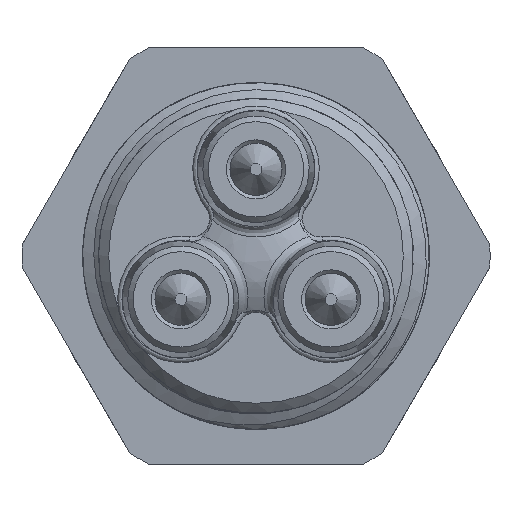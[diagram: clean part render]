
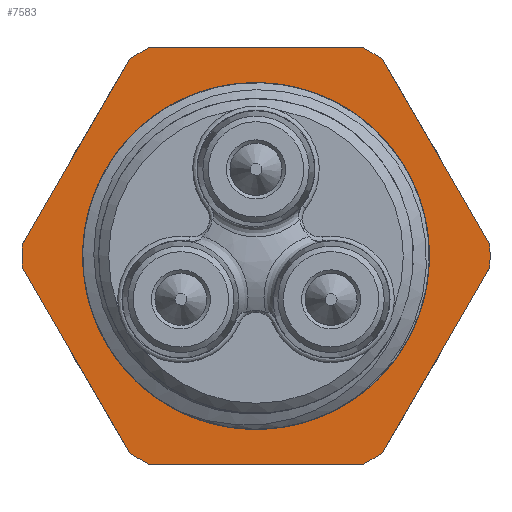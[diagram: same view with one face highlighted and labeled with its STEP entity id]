
A CAD part, front view. The second image highlights one B-rep face of the part: STEP entity #7583.
In plain terms, the highlighted planar face has unit normal (0, -1, 0).
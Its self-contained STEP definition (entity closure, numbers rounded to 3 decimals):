
#24 = EDGE_LOOP ( 'NONE', ( #1197, #7120 ) ) ;
#123 = VECTOR ( 'NONE', #2947, 1000. ) ;
#506 = DIRECTION ( 'NONE',  ( 0., 0., 1. ) ) ;
#523 = EDGE_CURVE ( 'NONE', #3905, #7174, #4492, .T. ) ;
#668 = CARTESIAN_POINT ( 'NONE',  ( 12.892, -2.75, 1.67 ) ) ;
#671 = VECTOR ( 'NONE', #3867, 1000. ) ;
#830 = ORIENTED_EDGE ( 'NONE', *, *, #8344, .F. ) ;
#1020 = ORIENTED_EDGE ( 'NONE', *, *, #6069, .F. ) ;
#1047 = EDGE_CURVE ( 'NONE', #5073, #4652, #2901, .T. ) ;
#1054 = DIRECTION ( 'NONE',  ( 0., 1., 0. ) ) ;
#1197 = ORIENTED_EDGE ( 'NONE', *, *, #8729, .T. ) ;
#1213 = DIRECTION ( 'NONE',  ( 0., 1., 0. ) ) ;
#1475 = AXIS2_PLACEMENT_3D ( 'NONE', #2023, #1213, #3539 ) ;
#1485 = LINE ( 'NONE', #3715, #7405 ) ;
#1493 = DIRECTION ( 'NONE',  ( 0., 0., 1. ) ) ;
#1515 = CARTESIAN_POINT ( 'NONE',  ( 12.892, -2.75, -1.67 ) ) ;
#1713 = DIRECTION ( 'NONE',  ( 0., 0., 1. ) ) ;
#1735 = CARTESIAN_POINT ( 'NONE',  ( 10., -2.75, -12. ) ) ;
#1833 = CARTESIAN_POINT ( 'NONE',  ( 0., -2.75, 0. ) ) ;
#1880 = DIRECTION ( 'NONE',  ( 0., 1., 0. ) ) ;
#1918 = AXIS2_PLACEMENT_3D ( 'NONE', #8024, #2832, #1493 ) ;
#2023 = CARTESIAN_POINT ( 'NONE',  ( 0., -2.75, 0. ) ) ;
#2185 = LINE ( 'NONE', #668, #5983 ) ;
#2286 = EDGE_LOOP ( 'NONE', ( #6316, #1020, #2302, #7749, #6196, #6018, #3443, #4724, #6228, #8507, #830, #3870 ) ) ;
#2302 = ORIENTED_EDGE ( 'NONE', *, *, #1047, .F. ) ;
#2401 = DIRECTION ( 'NONE',  ( 0., 0., 1. ) ) ;
#2516 = CARTESIAN_POINT ( 'NONE',  ( 9.977, -2.75, 0.679 ) ) ;
#2525 = CARTESIAN_POINT ( 'NONE',  ( 0., -2.75, 0. ) ) ;
#2739 = CARTESIAN_POINT ( 'NONE',  ( -7.3, -2.75, 11.356 ) ) ;
#2756 = DIRECTION ( 'NONE',  ( 0., 1., 0. ) ) ;
#2804 = CIRCLE ( 'NONE', #3854, 13.5 ) ;
#2831 = VERTEX_POINT ( 'NONE', #6248 ) ;
#2832 = DIRECTION ( 'NONE',  ( 0., 1., 0. ) ) ;
#2853 = CIRCLE ( 'NONE', #7265, 13.5 ) ;
#2901 = LINE ( 'NONE', #1515, #123 ) ;
#2947 = DIRECTION ( 'NONE',  ( -0.5, 0., -0.866 ) ) ;
#2955 = AXIS2_PLACEMENT_3D ( 'NONE', #2525, #8335, #4711 ) ;
#3000 = CARTESIAN_POINT ( 'NONE',  ( 0., -2.75, 0. ) ) ;
#3022 = EDGE_CURVE ( 'NONE', #6594, #5050, #2185, .T. ) ;
#3337 = VERTEX_POINT ( 'NONE', #6991 ) ;
#3443 = ORIENTED_EDGE ( 'NONE', *, *, #7956, .F. ) ;
#3460 = VERTEX_POINT ( 'NONE', #2516 ) ;
#3531 = CARTESIAN_POINT ( 'NONE',  ( -6.185, -2.75, -12. ) ) ;
#3539 = DIRECTION ( 'NONE',  ( 0., 0., 1. ) ) ;
#3541 = CARTESIAN_POINT ( 'NONE',  ( 7.3, -2.75, -11.356 ) ) ;
#3606 = DIRECTION ( 'NONE',  ( 0., 0., 1. ) ) ;
#3668 = DIRECTION ( 'NONE',  ( 0., 1., 0. ) ) ;
#3715 = CARTESIAN_POINT ( 'NONE',  ( -7.892, -2.75, -10.33 ) ) ;
#3755 = EDGE_CURVE ( 'NONE', #4239, #5274, #6702, .T. ) ;
#3843 = CIRCLE ( 'NONE', #9192, 13.5 ) ;
#3854 = AXIS2_PLACEMENT_3D ( 'NONE', #5246, #3668, #2401 ) ;
#3861 = CARTESIAN_POINT ( 'NONE',  ( -7.3, -2.75, -11.356 ) ) ;
#3867 = DIRECTION ( 'NONE',  ( -1., 0., 0. ) ) ;
#3870 = ORIENTED_EDGE ( 'NONE', *, *, #9166, .F. ) ;
#3899 = CIRCLE ( 'NONE', #1475, 10. ) ;
#3905 = VERTEX_POINT ( 'NONE', #3920 ) ;
#3920 = CARTESIAN_POINT ( 'NONE',  ( -13.485, -2.75, -0.644 ) ) ;
#3943 = EDGE_CURVE ( 'NONE', #8714, #3337, #3843, .T. ) ;
#4030 = AXIS2_PLACEMENT_3D ( 'NONE', #3000, #8711, #3606 ) ;
#4119 = CARTESIAN_POINT ( 'NONE',  ( 0., -2.75, 0. ) ) ;
#4169 = FACE_BOUND ( 'NONE', #24, .T. ) ;
#4196 = VECTOR ( 'NONE', #8512, 1000. ) ;
#4239 = VERTEX_POINT ( 'NONE', #5603 ) ;
#4383 = DIRECTION ( 'NONE',  ( -0.5, 0., 0.866 ) ) ;
#4492 = CIRCLE ( 'NONE', #1918, 13.5 ) ;
#4632 = AXIS2_PLACEMENT_3D ( 'NONE', #4855, #2756, #6292 ) ;
#4652 = VERTEX_POINT ( 'NONE', #3541 ) ;
#4711 = DIRECTION ( 'NONE',  ( 0., 0., 1. ) ) ;
#4724 = ORIENTED_EDGE ( 'NONE', *, *, #3943, .F. ) ;
#4854 = DIRECTION ( 'NONE',  ( 0., 1., 0. ) ) ;
#4855 = CARTESIAN_POINT ( 'NONE',  ( 10., -2.75, 0. ) ) ;
#4934 = VERTEX_POINT ( 'NONE', #3861 ) ;
#4944 = DIRECTION ( 'NONE',  ( 0.5, 0., -0.866 ) ) ;
#5050 = VERTEX_POINT ( 'NONE', #6168 ) ;
#5073 = VERTEX_POINT ( 'NONE', #7741 ) ;
#5246 = CARTESIAN_POINT ( 'NONE',  ( 0., -2.75, 0. ) ) ;
#5274 = VERTEX_POINT ( 'NONE', #3531 ) ;
#5603 = CARTESIAN_POINT ( 'NONE',  ( 6.185, -2.75, -12. ) ) ;
#5760 = PLANE ( 'NONE',  #4632 ) ;
#5822 = CARTESIAN_POINT ( 'NONE',  ( 7.3, -2.75, 11.356 ) ) ;
#5882 = VECTOR ( 'NONE', #6219, 1000. ) ;
#5895 = EDGE_CURVE ( 'NONE', #9097, #3460, #6331, .T. ) ;
#5983 = VECTOR ( 'NONE', #4944, 1000. ) ;
#6018 = ORIENTED_EDGE ( 'NONE', *, *, #7765, .F. ) ;
#6069 = EDGE_CURVE ( 'NONE', #4652, #4239, #9368, .T. ) ;
#6168 = CARTESIAN_POINT ( 'NONE',  ( 13.485, -2.75, 0.644 ) ) ;
#6196 = ORIENTED_EDGE ( 'NONE', *, *, #3022, .F. ) ;
#6219 = DIRECTION ( 'NONE',  ( 1., 0., 0. ) ) ;
#6228 = ORIENTED_EDGE ( 'NONE', *, *, #8637, .F. ) ;
#6248 = CARTESIAN_POINT ( 'NONE',  ( 6.185, -2.75, 12. ) ) ;
#6292 = DIRECTION ( 'NONE',  ( 0., 0., 1. ) ) ;
#6316 = ORIENTED_EDGE ( 'NONE', *, *, #3755, .F. ) ;
#6320 = LINE ( 'NONE', #8652, #4196 ) ;
#6331 = CIRCLE ( 'NONE', #2955, 10. ) ;
#6594 = VERTEX_POINT ( 'NONE', #5822 ) ;
#6665 = EDGE_CURVE ( 'NONE', #5050, #5073, #2804, .T. ) ;
#6702 = LINE ( 'NONE', #1735, #671 ) ;
#6834 = CARTESIAN_POINT ( 'NONE',  ( 10., -2.75, 12. ) ) ;
#6924 = LINE ( 'NONE', #6834, #5882 ) ;
#6991 = CARTESIAN_POINT ( 'NONE',  ( -6.185, -2.75, 12. ) ) ;
#7120 = ORIENTED_EDGE ( 'NONE', *, *, #5895, .T. ) ;
#7174 = VERTEX_POINT ( 'NONE', #8053 ) ;
#7265 = AXIS2_PLACEMENT_3D ( 'NONE', #8240, #1054, #1713 ) ;
#7405 = VECTOR ( 'NONE', #4383, 1000. ) ;
#7583 = ADVANCED_FACE ( 'NONE', ( #4169, #7854 ), #5760, .F. ) ;
#7741 = CARTESIAN_POINT ( 'NONE',  ( 13.485, -2.75, -0.644 ) ) ;
#7749 = ORIENTED_EDGE ( 'NONE', *, *, #6665, .F. ) ;
#7765 = EDGE_CURVE ( 'NONE', #2831, #6594, #8152, .T. ) ;
#7854 = FACE_OUTER_BOUND ( 'NONE', #2286, .T. ) ;
#7956 = EDGE_CURVE ( 'NONE', #3337, #2831, #6924, .T. ) ;
#8024 = CARTESIAN_POINT ( 'NONE',  ( 0., -2.75, 0. ) ) ;
#8053 = CARTESIAN_POINT ( 'NONE',  ( -13.485, -2.75, 0.644 ) ) ;
#8152 = CIRCLE ( 'NONE', #4030, 13.5 ) ;
#8240 = CARTESIAN_POINT ( 'NONE',  ( 0., -2.75, 0. ) ) ;
#8277 = AXIS2_PLACEMENT_3D ( 'NONE', #4119, #4854, #8619 ) ;
#8335 = DIRECTION ( 'NONE',  ( 0., 1., 0. ) ) ;
#8344 = EDGE_CURVE ( 'NONE', #4934, #3905, #1485, .T. ) ;
#8507 = ORIENTED_EDGE ( 'NONE', *, *, #523, .F. ) ;
#8512 = DIRECTION ( 'NONE',  ( 0.5, 0., 0.866 ) ) ;
#8619 = DIRECTION ( 'NONE',  ( 0., 0., 1. ) ) ;
#8637 = EDGE_CURVE ( 'NONE', #7174, #8714, #6320, .T. ) ;
#8652 = CARTESIAN_POINT ( 'NONE',  ( -7.892, -2.75, 10.33 ) ) ;
#8711 = DIRECTION ( 'NONE',  ( 0., 1., 0. ) ) ;
#8714 = VERTEX_POINT ( 'NONE', #2739 ) ;
#8729 = EDGE_CURVE ( 'NONE', #3460, #9097, #3899, .T. ) ;
#9097 = VERTEX_POINT ( 'NONE', #9268 ) ;
#9166 = EDGE_CURVE ( 'NONE', #5274, #4934, #2853, .T. ) ;
#9192 = AXIS2_PLACEMENT_3D ( 'NONE', #1833, #1880, #506 ) ;
#9268 = CARTESIAN_POINT ( 'NONE',  ( -7.071, -2.75, -7.071 ) ) ;
#9368 = CIRCLE ( 'NONE', #8277, 13.5 ) ;
